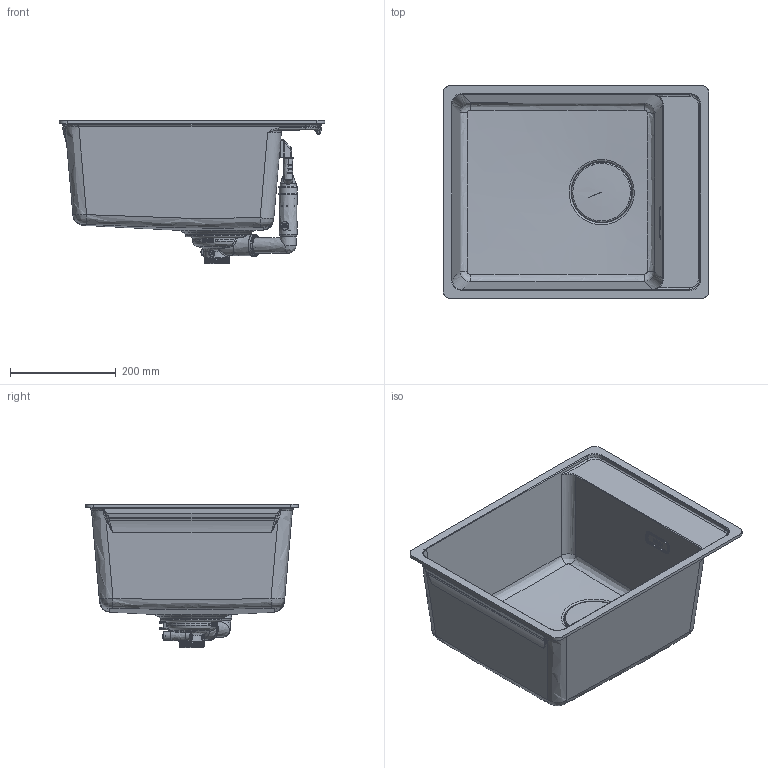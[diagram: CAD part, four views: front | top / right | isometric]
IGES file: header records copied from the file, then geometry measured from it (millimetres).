
Global section: file name: MRG 210-37 TL; native system: Autodesk Inventor 2021; preprocessor: unknown; date: 20210929.143447; units: millimetre
Bounding box: 503 x 403 x 271.19 mm (x, y, z)
Volume: 3419522.2 mm3; surface area: 1123323.6 mm2
Topology: 20 solids, 21 shells, 5093 faces, 13660 edges, 8794 vertices
Faces by surface type: bspline 5093
